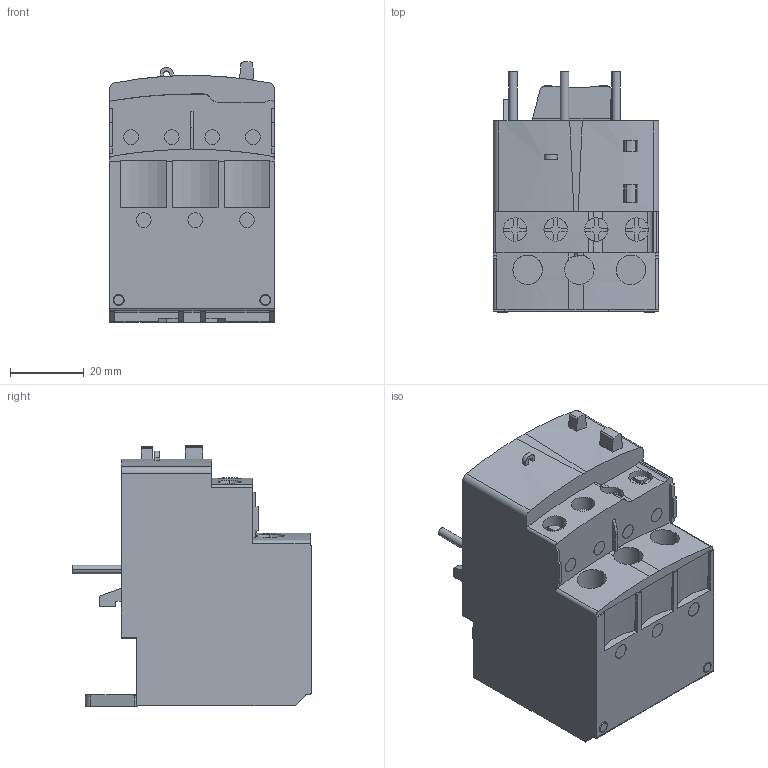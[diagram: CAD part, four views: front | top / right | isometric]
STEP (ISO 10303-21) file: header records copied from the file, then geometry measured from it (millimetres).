
FILE_DESCRIPTION(('STEP AP214'),'1');
FILE_NAME(' ',' ',('TraceParts'),('TraceParts S.A.'),'XStep 1.0',' ',' ');
FILE_SCHEMA(('automotive_design'));
Length unit declared in the file: millimetre
Products named in the file (1): 1
Bounding box: 44.8 x 65.04 x 70.72 mm (x, y, z)
Volume: 120996.2 mm3; surface area: 20843.9 mm2
Topology: 1 solids, 1 shells, 445 faces, 1262 edges, 842 vertices
Faces by surface type: plane 302, cylinder 139, torus 4
Entity records: 15640 total; most frequent: CARTESIAN_POINT 3476, ORIENTED_EDGE 2524, DIRECTION 2389, EDGE_CURVE 1262, LINE 929, VECTOR 929, VERTEX_POINT 842, AXIS2_PLACEMENT_3D 730
